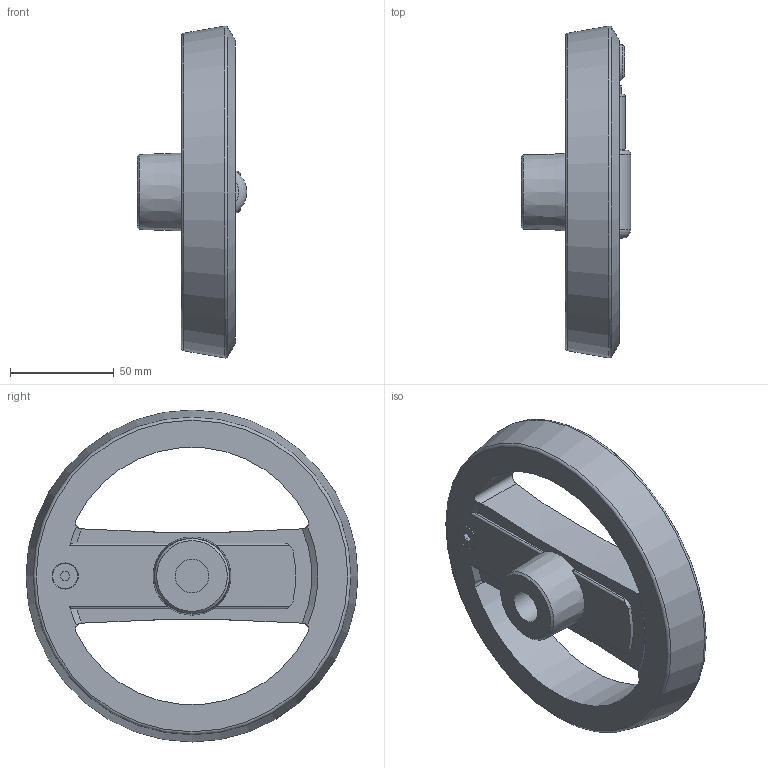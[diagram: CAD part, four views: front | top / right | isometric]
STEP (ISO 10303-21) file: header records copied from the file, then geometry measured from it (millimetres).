
FILE_DESCRIPTION( ( 'STEP AP203' ), '1' );
FILE_NAME( 'C:/Temp/Ganter_Step_05_03_2020/data/1_3/gn_924_7/gn_924_7_b/Handwheel with retractable handle GN 924.7-160-B16-R-SW (unactivated).stp', '2020-03-05T10:41:40', ( 'License CC BY-ND 4.0' ), ( 'CADENAS' ), ' ', 'PARTsolutions', ' ' );
FILE_SCHEMA( ( 'CONFIG_CONTROL_DESIGN' ) );
Length unit declared in the file: millimetre
Products named in the file (3): Handwheel with retractable handle GN 924.7-160-B16-R-SW (unactivated); _Umleggriff-Handrad GN 924.7-160-B16-R-SW-1; _Umleggriff-Handrad GN 924.7-160-B16-R-SW (0)-2
Assembly tree (2 placements, depth 2):
  Handwheel with retractable handle GN 924.7-160-B16-R-SW (unactivated)
    _Umleggriff-Handrad GN 924.7-160-B16-R-SW-1
    _Umleggriff-Handrad GN 924.7-160-B16-R-SW (0)-2
Bounding box: 52.7 x 159.68 x 159.68 mm (x, y, z)
Volume: 293165.2 mm3; surface area: 65966.5 mm2
Topology: 2 solids, 2 shells, 108 faces, 278 edges, 179 vertices
Faces by surface type: plane 44, cylinder 42, cone 12, torus 8, sphere 2
Full cylindrical faces by diameter (mm): 4 x4, 5 x1, 8 x1, 12 x1, 15 x1, 16 x1, 18.5 x1, 20 x1, 24 x2, 25.6 x1
Entity records: 3572 total; most frequent: CARTESIAN_POINT 996, DIRECTION 516, ORIENTED_EDGE 478, EDGE_CURVE 239, AXIS2_PLACEMENT_3D 217, VERTEX_POINT 173, EDGE_LOOP 151, FACE_OUTER_BOUND 129
